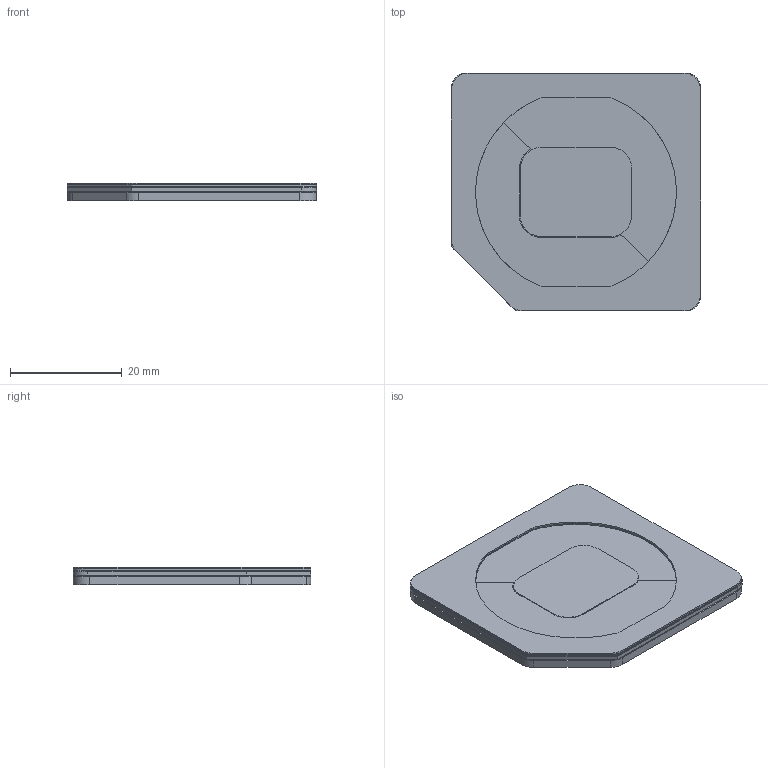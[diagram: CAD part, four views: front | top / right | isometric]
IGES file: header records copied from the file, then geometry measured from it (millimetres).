
Global section: file name: 153-13558_LPF VXX S2 (VISOR 2 Polfilter 50%); native system: Autodesk Inventor 2018; preprocessor: unknown; author: ss; date: 20190129.102329; units: millimetre
Bounding box: 44.6 x 42.6 x 3.12 mm (x, y, z)
Volume: 3808.3 mm3; surface area: 4497.1 mm2
Topology: 1 solids, 1 shells, 104 faces, 258 edges, 160 vertices
Faces by surface type: bspline 104
